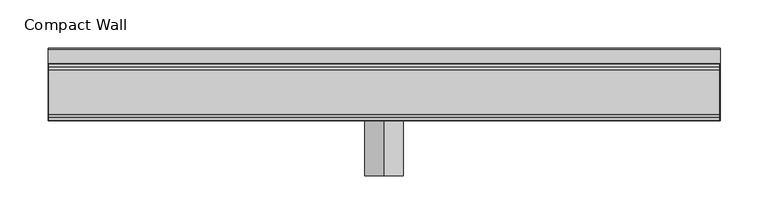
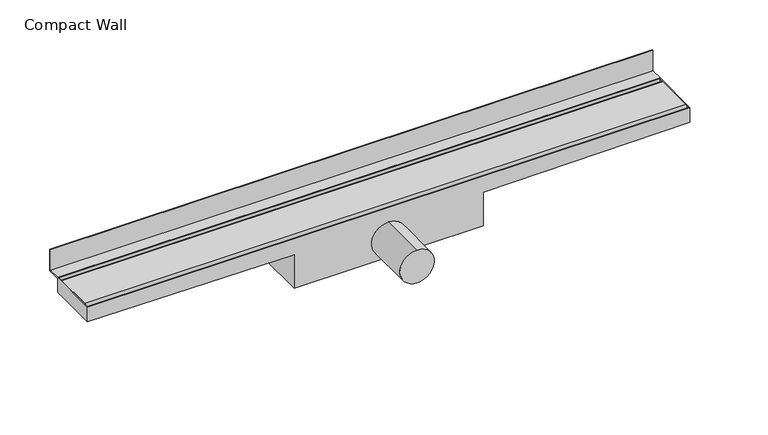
"""IFC4 building model written with IfcOpenShell, lengths in millimetres: sanitary terminal geometry, NLRS_PF_52_UN_Compact_Easydrain : Compact Wall."""

from ifc_helpers import new_model, si_unit, point, frame, frame_2d, origin, place, context, project, spatial, polyline, circle_curve, trimmed, segment, composite_curve, outline, extrude, source, transform, mapped, element, save
from ifc_brep_helpers import plane_surface, cylinder_surface, advanced_brep


def compact_wall_42add6d5(model_context):
    return source(origin(), model_context, "Body", "SolidModel", [
        extrude(outline(composite_curve([segment(polyline([(-23.0, 0.0), (23.0, 0.0)]), True, "CONTINUOUS"), segment(trimmed(circle_curve(frame_2d((23.0, -3.0)), 3.0), [point((23.0, 0.0))], [point((26.0, -3.0))], False, "CARTESIAN"), True, "CONTINUOUS"), segment(polyline([(26.0, -3.0), (26.0, -12.0), (-26.0, -12.0), (-26.0, -3.0)]), True, "CONTINUOUS"), segment(trimmed(circle_curve(frame_2d((-23.0, -3.0)), 3.0), [point((-26.0, -3.0))], [point((-23.0, 0.0))], False, "CARTESIAN"), True, "CONTINUOUS")], self_intersect=False)), frame((-249.0, 0.0, 0.0), z_axis=(1.0, 0.0, 0.0), x_axis=(0.0, 1.0, 0.0)), (0.0, 0.0, 1.0), 698.0),
        extrude(outline(polyline([(46.0, -1.5), (30.0, -1.5), (30.0, 0.0), (44.5, 0.0), (44.5, 25.0), (46.0, 25.0), (46.0, -1.5)])), frame((-250.0, 0.0, 0.0), z_axis=(1.0, 0.0, 0.0), x_axis=(0.0, 1.0, 0.0)), (0.0, 0.0, 1.0), 700.0),
        advanced_brep(
        [(-250.0, -30.0, -18.0), (-10.0, -30.0, -20.0), (-10.0, -30.0, -61.0), (210.0, -30.0, -61.0), (210.0, -30.0, -20.0), (450.0, -30.0, -18.0), (450.0, -30.0, 0.0), (-250.0, -30.0, 0.0), (100.0, -30.0, -18.0), (100.0, -30.0, -58.0), (-250.0, 30.0, -18.0), (-250.0, 30.0, 0.0), (450.0, 30.0, 0.0), (450.0, 30.0, -18.0), (210.0, 30.0, -20.0), (210.0, 30.0, -61.0), (-10.0, 30.0, -61.0), (-10.0, 30.0, -20.0), (-249.0, 29.0, 0.0), (449.0, 29.0, 0.0), (449.0, -29.0, 0.0), (-249.0, -29.0, 0.0), (100.0, -87.0466767, -18.0), (100.0, -87.0466767, -58.0), (449.0, 29.0, -12.0), (-249.0, 29.0, -12.0), (-249.0, -29.0, -12.0), (449.0, -29.0, -12.0)],
        [
            (0, 1),
            (1, 2),
            (2, 3),
            (3, 4),
            (4, 5),
            (5, 6),
            (6, 7),
            (7, 0),
            (8, 9, circle_curve(frame((100.0, -30.0, -38.0), z_axis=(0.0, 1.0, 0.0), x_axis=(0.0, 0.0, -1.0)), 20.0)),
            (9, 8, circle_curve(frame((100.0, -30.0, -38.0), z_axis=(0.0, 1.0, 0.0), x_axis=(0.0, 0.0, -1.0)), 20.0)),
            (10, 11),
            (11, 12),
            (12, 13),
            (13, 14),
            (14, 15),
            (15, 16),
            (16, 17),
            (17, 10),
            (0, 10),
            (17, 1),
            (5, 13),
            (12, 6),
            (11, 7),
            (18, 19),
            (19, 20),
            (20, 21),
            (21, 18),
            (16, 2),
            (15, 3),
            (14, 4),
            (22, 23, circle_curve(frame((100.0, -87.0466767, -38.0), z_axis=(0.0, -1.0, 0.0), x_axis=(0.0, 0.0, -1.0)), 20.0)),
            (23, 22, circle_curve(frame((100.0, -87.0466767, -38.0), z_axis=(0.0, -1.0, 0.0), x_axis=(0.0, 0.0, -1.0)), 20.0)),
            (23, 9),
            (8, 22),
            (24, 25),
            (25, 26),
            (26, 27),
            (27, 24),
            (24, 19),
            (18, 25),
            (21, 26),
            (20, 27),
        ],
        [
            plane_surface(frame((-250.0, -30.0, -18.0), z_axis=(0.0, -1.0, 0.0), x_axis=(0.9999652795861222, 0.0, -0.008333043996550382))),
            plane_surface(frame((-250.0, 30.0, -18.0), z_axis=(0.0, 1.0, 0.0), x_axis=(-0.9999652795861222, 0.0, 0.008333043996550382))),
            plane_surface(frame((-250.0, -30.0, -18.0), z_axis=(-0.008333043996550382, 0.0, -0.9999652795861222), x_axis=(0.0, 1.0, 0.0))),
            plane_surface(frame((450.0, -30.0, -18.0), z_axis=(1.0, 0.0, 0.0), x_axis=(0.0, 1.0, 0.0))),
            plane_surface(frame((450.0, -30.0, 0.0), z_axis=(0.0, 0.0, 1.0), x_axis=(0.0, 1.0, 0.0))),
            plane_surface(frame((-250.0, -30.0, 0.0), z_axis=(-1.0, 0.0, 0.0), x_axis=(0.0, 1.0, 0.0))),
            plane_surface(frame((-10.0, -30.0, -20.0), z_axis=(-1.0, 0.0, 0.0), x_axis=(0.0, 1.0, 0.0))),
            plane_surface(frame((-10.0, -30.0, -61.0), z_axis=(0.0, 0.0, -1.0), x_axis=(0.0, 1.0, 0.0))),
            plane_surface(frame((210.0, -30.0, -61.0), z_axis=(1.0, 0.0, 0.0), x_axis=(0.0, 1.0, 0.0))),
            plane_surface(frame((210.0, -30.0, -20.0), z_axis=(0.008333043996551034, 0.0, -0.9999652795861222), x_axis=(0.0, 1.0, 0.0))),
            plane_surface(frame((100.0, -87.0466767, -38.0), z_axis=(0.0, -1.0, 0.0), x_axis=(1.0, 0.0, 0.0))),
            cylinder_surface(frame((100.0, 0.0, -38.0), z_axis=(0.0, 1.0, 0.0), x_axis=(0.0, 0.0, -1.0)), 20.0),
            plane_surface(frame((-249.0, 29.0, -12.0), z_axis=(0.0, 0.0, 1.0), x_axis=(1.0, 0.0, 0.0))),
            plane_surface(frame((449.0, 29.0, 0.0), z_axis=(0.0, -1.0, 0.0), x_axis=(0.0, 0.0, -1.0))),
            plane_surface(frame((-249.0, 29.0, 0.0), z_axis=(1.0, 0.0, 0.0), x_axis=(0.0, 0.0, -1.0))),
            plane_surface(frame((-249.0, -29.0, 0.0), z_axis=(0.0, 1.0, 0.0), x_axis=(0.0, 0.0, -1.0))),
            plane_surface(frame((449.0, -29.0, 0.0), z_axis=(-1.0, 0.0, 0.0), x_axis=(0.0, 0.0, -1.0))),
        ],
        [
            (0, [[1, 2, 3, 4, 5, 6, 7, 8], [9, 10]]),
            (1, [[11, 12, 13, 14, 15, 16, 17, 18]]),
            (2, [[-1, 19, -18, 20]]),
            (3, [[-6, 21, -13, 22]]),
            (4, [[-7, -22, -12, 23], [24, 25, 26, 27]]),
            (5, [[-8, -23, -11, -19]]),
            (6, [[-2, -20, -17, 28]]),
            (7, [[-3, -28, -16, 29]]),
            (8, [[-4, -29, -15, 30]]),
            (9, [[-5, -30, -14, -21]]),
            (10, [[31, 32]]),
            (11, [[-32, 33, -9, 34]]),
            (11, [[-31, -34, -10, -33]]),
            (12, [[35, 36, 37, 38]]),
            (13, [[-35, 39, -24, 40]]),
            (14, [[-36, -40, -27, 41]]),
            (15, [[-37, -41, -26, 42]]),
            (16, [[-38, -42, -25, -39]]),
        ],
    ),
    ])


if __name__ == "__main__":
    model = new_model("IFC4")
    model_context = context("Model", 3, world=origin())
    ifc_project = project(units=[si_unit("LENGTHUNIT", "METRE", prefix="MILLI")], contexts=[model_context])
    site = spatial("IfcSite", under=ifc_project)
    building = spatial("IfcBuilding", under=site)
    placement = place(None, origin())
    compact_wall_shape = compact_wall_42add6d5(model_context)
    element("IfcSanitaryTerminal", 1, ObjectType="NLRS_PF_52_UN_Compact_Easydrain : Compact Wall", at=placement, inside=building, context=model_context, shape_type="MappedRepresentation", body=[
        mapped(compact_wall_shape, transform((0.0, 0.0, 0.0), x_axis=(1.0, 0.0, 0.0), y_axis=(0.0, 1.0, 0.0), z_axis=(0.0, 0.0, 1.0))),
    ])
    save(model, "model.ifc")
